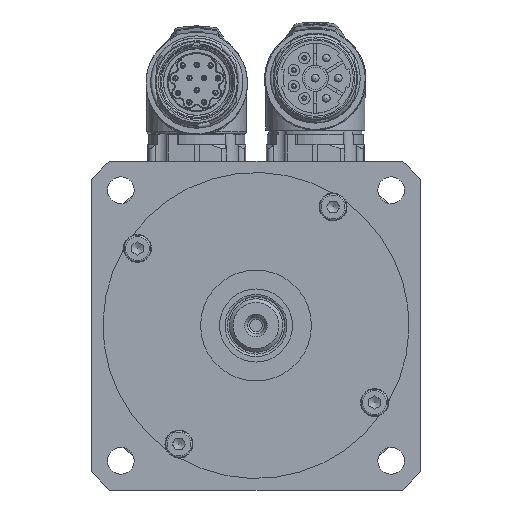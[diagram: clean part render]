
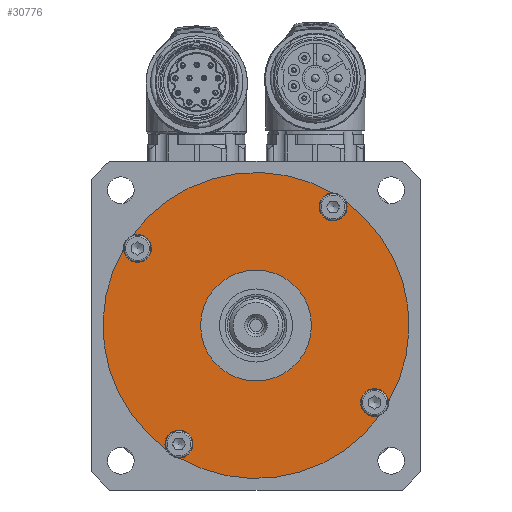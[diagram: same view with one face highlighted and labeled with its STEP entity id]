
A CAD part, left-side view. The second image highlights one B-rep face of the part: STEP entity #30776.
In plain terms, the highlighted planar face has unit normal (-1, 0, 0).
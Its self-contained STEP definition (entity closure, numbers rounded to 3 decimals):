
#583=FACE_BOUND('',#4018,.T.);
#1640=PLANE('',#33098);
#2221=FACE_OUTER_BOUND('',#4017,.T.);
#4017=EDGE_LOOP('',(#19625,#19626,#19627,#19628,#19629,#19630,#19631,#19632,
#19633,#19634,#19635,#19636));
#4018=EDGE_LOOP('',(#19637));
#6167=CIRCLE('',#33008,14.5);
#6198=CIRCLE('',#33056,3.65);
#6199=CIRCLE('',#33057,3.65);
#6204=CIRCLE('',#33065,3.65);
#6205=CIRCLE('',#33066,3.65);
#6210=CIRCLE('',#33074,3.65);
#6211=CIRCLE('',#33075,3.65);
#6216=CIRCLE('',#33083,3.65);
#6217=CIRCLE('',#33084,3.65);
#6221=CIRCLE('',#33093,40.);
#6225=CIRCLE('',#33099,40.);
#6226=CIRCLE('',#33100,40.);
#6227=CIRCLE('',#33101,40.);
#11385=VERTEX_POINT('',#46473);
#11423=VERTEX_POINT('',#46579);
#11424=VERTEX_POINT('',#46581);
#11425=VERTEX_POINT('',#46584);
#11431=VERTEX_POINT('',#46600);
#11432=VERTEX_POINT('',#46602);
#11433=VERTEX_POINT('',#46605);
#11439=VERTEX_POINT('',#46621);
#11440=VERTEX_POINT('',#46623);
#11441=VERTEX_POINT('',#46626);
#11447=VERTEX_POINT('',#46642);
#11448=VERTEX_POINT('',#46644);
#11449=VERTEX_POINT('',#46647);
#14469=EDGE_CURVE('',#11385,#11385,#6167,.T.);
#14520=EDGE_CURVE('',#11423,#11424,#6198,.T.);
#14522=EDGE_CURVE('',#11424,#11425,#6199,.T.);
#14530=EDGE_CURVE('',#11431,#11432,#6204,.T.);
#14532=EDGE_CURVE('',#11432,#11433,#6205,.T.);
#14540=EDGE_CURVE('',#11439,#11440,#6210,.T.);
#14542=EDGE_CURVE('',#11440,#11441,#6211,.T.);
#14550=EDGE_CURVE('',#11447,#11448,#6216,.T.);
#14552=EDGE_CURVE('',#11448,#11449,#6217,.T.);
#14562=EDGE_CURVE('',#11441,#11447,#6221,.T.);
#14566=EDGE_CURVE('',#11433,#11439,#6225,.T.);
#14567=EDGE_CURVE('',#11425,#11431,#6226,.T.);
#14568=EDGE_CURVE('',#11449,#11423,#6227,.T.);
#19625=ORIENTED_EDGE('',*,*,#14550,.F.);
#19626=ORIENTED_EDGE('',*,*,#14562,.F.);
#19627=ORIENTED_EDGE('',*,*,#14542,.F.);
#19628=ORIENTED_EDGE('',*,*,#14540,.F.);
#19629=ORIENTED_EDGE('',*,*,#14566,.F.);
#19630=ORIENTED_EDGE('',*,*,#14532,.F.);
#19631=ORIENTED_EDGE('',*,*,#14530,.F.);
#19632=ORIENTED_EDGE('',*,*,#14567,.F.);
#19633=ORIENTED_EDGE('',*,*,#14522,.F.);
#19634=ORIENTED_EDGE('',*,*,#14520,.F.);
#19635=ORIENTED_EDGE('',*,*,#14568,.F.);
#19636=ORIENTED_EDGE('',*,*,#14552,.F.);
#19637=ORIENTED_EDGE('',*,*,#14469,.F.);
#30776=ADVANCED_FACE('',(#2221,#583),#1640,.F.);
#33008=AXIS2_PLACEMENT_3D('',#46475,#37184,#37185);
#33056=AXIS2_PLACEMENT_3D('',#46582,#37300,#37301);
#33057=AXIS2_PLACEMENT_3D('',#46585,#37303,#37304);
#33065=AXIS2_PLACEMENT_3D('',#46603,#37322,#37323);
#33066=AXIS2_PLACEMENT_3D('',#46606,#37325,#37326);
#33074=AXIS2_PLACEMENT_3D('',#46624,#37344,#37345);
#33075=AXIS2_PLACEMENT_3D('',#46627,#37347,#37348);
#33083=AXIS2_PLACEMENT_3D('',#46645,#37366,#37367);
#33084=AXIS2_PLACEMENT_3D('',#46648,#37369,#37370);
#33093=AXIS2_PLACEMENT_3D('',#46666,#37393,#37394);
#33098=AXIS2_PLACEMENT_3D('',#46671,#37403,#37404);
#33099=AXIS2_PLACEMENT_3D('',#46672,#37405,#37406);
#33100=AXIS2_PLACEMENT_3D('',#46673,#37407,#37408);
#33101=AXIS2_PLACEMENT_3D('',#46674,#37409,#37410);
#37184=DIRECTION('center_axis',(-1.,0.,0.));
#37185=DIRECTION('ref_axis',(0.,1.,0.));
#37300=DIRECTION('center_axis',(-1.,0.,0.));
#37301=DIRECTION('ref_axis',(0.,0.,1.));
#37303=DIRECTION('center_axis',(-1.,0.,0.));
#37304=DIRECTION('ref_axis',(0.,0.,1.));
#37322=DIRECTION('center_axis',(-1.,0.,0.));
#37323=DIRECTION('ref_axis',(0.,-1.,0.));
#37325=DIRECTION('center_axis',(-1.,0.,0.));
#37326=DIRECTION('ref_axis',(0.,-1.,0.));
#37344=DIRECTION('center_axis',(-1.,0.,0.));
#37345=DIRECTION('ref_axis',(0.,0.,-1.));
#37347=DIRECTION('center_axis',(-1.,0.,0.));
#37348=DIRECTION('ref_axis',(0.,0.,-1.));
#37366=DIRECTION('center_axis',(-1.,0.,0.));
#37367=DIRECTION('ref_axis',(0.,1.,0.));
#37369=DIRECTION('center_axis',(-1.,0.,0.));
#37370=DIRECTION('ref_axis',(0.,1.,0.));
#37393=DIRECTION('center_axis',(1.,0.,0.));
#37394=DIRECTION('ref_axis',(0.,0.,-1.));
#37403=DIRECTION('center_axis',(1.,0.,0.));
#37404=DIRECTION('ref_axis',(0.,0.,-1.));
#37405=DIRECTION('center_axis',(1.,0.,0.));
#37406=DIRECTION('ref_axis',(0.,0.,-1.));
#37407=DIRECTION('center_axis',(1.,0.,0.));
#37408=DIRECTION('ref_axis',(0.,0.,-1.));
#37409=DIRECTION('center_axis',(1.,0.,0.));
#37410=DIRECTION('ref_axis',(0.,0.,-1.));
#46473=CARTESIAN_POINT('',(-36.25,-14.5,0.));
#46475=CARTESIAN_POINT('Origin',(-36.25,0.,0.));
#46579=CARTESIAN_POINT('',(-36.25,34.647,19.99));
#46581=CARTESIAN_POINT('',(-36.25,31.,16.5));
#46582=CARTESIAN_POINT('Origin',(-36.25,31.,20.15));
#46584=CARTESIAN_POINT('',(-36.25,32.335,23.547));
#46585=CARTESIAN_POINT('Origin',(-36.25,31.,20.15));
#46600=CARTESIAN_POINT('',(-36.25,-19.99,34.647));
#46602=CARTESIAN_POINT('',(-36.25,-16.5,31.));
#46603=CARTESIAN_POINT('Origin',(-36.25,-20.15,31.));
#46605=CARTESIAN_POINT('',(-36.25,-23.547,32.335));
#46606=CARTESIAN_POINT('Origin',(-36.25,-20.15,31.));
#46621=CARTESIAN_POINT('',(-36.25,-34.647,-19.99));
#46623=CARTESIAN_POINT('',(-36.25,-31.,-16.5));
#46624=CARTESIAN_POINT('Origin',(-36.25,-31.,-20.15));
#46626=CARTESIAN_POINT('',(-36.25,-32.335,-23.547));
#46627=CARTESIAN_POINT('Origin',(-36.25,-31.,-20.15));
#46642=CARTESIAN_POINT('',(-36.25,19.99,-34.647));
#46644=CARTESIAN_POINT('',(-36.25,16.5,-31.));
#46645=CARTESIAN_POINT('Origin',(-36.25,20.15,-31.));
#46647=CARTESIAN_POINT('',(-36.25,23.547,-32.335));
#46648=CARTESIAN_POINT('Origin',(-36.25,20.15,-31.));
#46666=CARTESIAN_POINT('Origin',(-36.25,0.,0.));
#46671=CARTESIAN_POINT('Origin',(-36.25,0.,13.273));
#46672=CARTESIAN_POINT('Origin',(-36.25,0.,0.));
#46673=CARTESIAN_POINT('Origin',(-36.25,0.,0.));
#46674=CARTESIAN_POINT('Origin',(-36.25,0.,0.));
